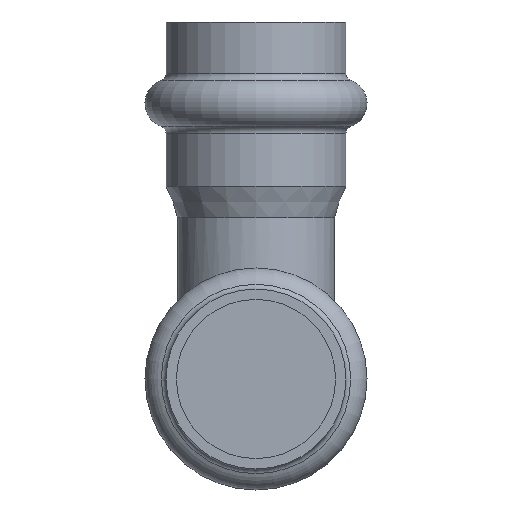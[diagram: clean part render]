
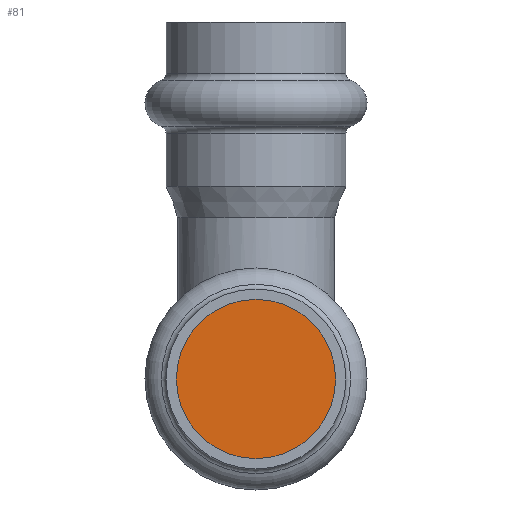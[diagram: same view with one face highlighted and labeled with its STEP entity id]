
A CAD part, front view. The second image highlights one B-rep face of the part: STEP entity #81.
In plain terms, the highlighted planar face has unit normal (0, -1, 0).
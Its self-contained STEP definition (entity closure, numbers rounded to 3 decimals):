
#81=ADVANCED_FACE('',(#332),#334,.T.);
#332=FACE_BOUND('',#333,.T.);
#333=EDGE_LOOP('',(#400));
#334=PLANE('',#335);
#335=AXIS2_PLACEMENT_3D('',#336,#337,#338);
#336=CARTESIAN_POINT('',(0.,-41.029,0.));
#337=DIRECTION('',(0.,-1.,0.));
#338=DIRECTION('',(0.,0.,-1.));
#400=ORIENTED_EDGE('',*,*,#431,.T.);
#431=EDGE_CURVE('',#492,#492,#493,.F.);
#492=VERTEX_POINT('',#644);
#493=CIRCLE('',#645,11.15);
#644=CARTESIAN_POINT('',(0.,-41.029,11.15));
#645=AXIS2_PLACEMENT_3D('',#646,#647,#648);
#646=CARTESIAN_POINT('',(0.,-41.029,0.));
#647=DIRECTION('',(0.,1.,0.));
#648=DIRECTION('',(0.,0.,1.));
